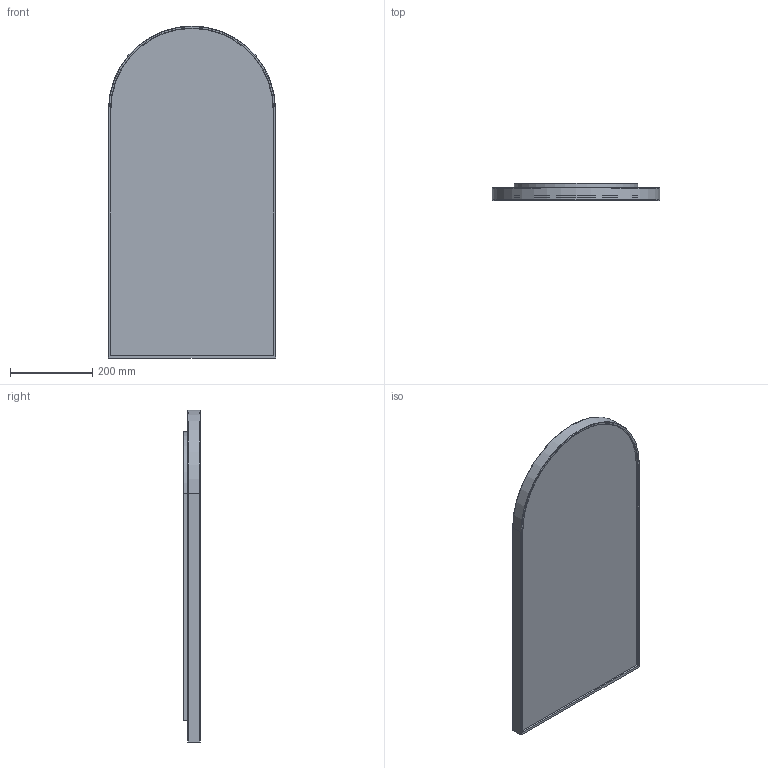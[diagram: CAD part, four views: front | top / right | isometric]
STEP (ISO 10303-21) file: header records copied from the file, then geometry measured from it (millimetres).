
FILE_DESCRIPTION(/* description */ ('Unknown'),/* implementation_level */ '2;1');
FILE_NAME(/* name */ 'Arco-AMB',/* time_stamp */ '2026-01-08T14:03:18+01:00',/* author */ ('Mariusz Kirko'),/* organization */ ('Kraft'),/* preprocessor_version */ 'ST-DEVELOPER v19.4',/* originating_system */ 'Solid Edge',/* authorisation */ 'Unknown');
FILE_SCHEMA (('AUTOMOTIVE_DESIGN {1 0 10303 214 3 1 1}'));
Length unit declared in the file: millimetre
Products named in the file (5): Z這瞠nie 40x80 plus zawieszki; Rama 40x80; Lustro 40x80; 250x30; Ramka HIPS 40x80
Assembly tree (5 placements, depth 2):
  Z這瞠nie 40x80 plus zawieszki
    Rama 40x80
    Lustro 40x80
    250x30  x2
    Ramka HIPS 40x80
Bounding box: 406 x 40 x 806 mm (x, y, z)
Volume: 1602102.4 mm3; surface area: 986973.4 mm2
Topology: 5 solids, 5 shells, 146 faces, 395 edges, 260 vertices
Faces by surface type: plane 87, cylinder 54, torus 4, cone 1
Entity records: 3131 total; most frequent: DIRECTION 528, CARTESIAN_POINT 517, ORIENTED_EDGE 502, EDGE_CURVE 251, LINE 178, VECTOR 178, AXIS2_PLACEMENT_3D 175, VERTEX_POINT 164
